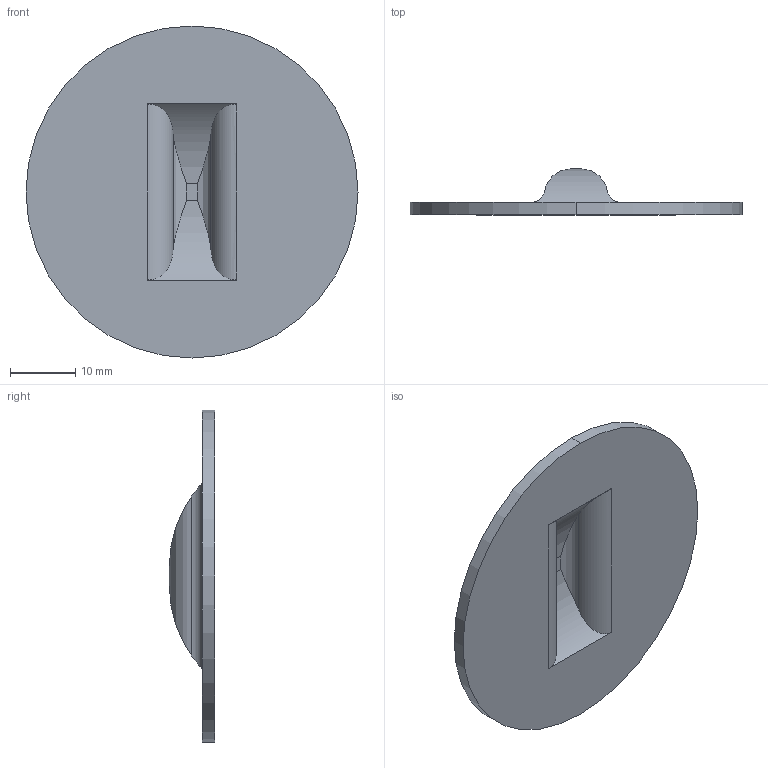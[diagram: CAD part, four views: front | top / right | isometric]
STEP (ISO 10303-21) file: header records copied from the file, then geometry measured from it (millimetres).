
FILE_DESCRIPTION (( 'STEP AP203' ), '1' );
FILE_NAME ('1140525-30.STEP', '2024-11-18T12:03:29', ( 'Admin' ), ( 'Microsoft' ), 'SwSTEP 2.0', 'SolidWorks 2024', '' );
FILE_SCHEMA (( 'CONFIG_CONTROL_DESIGN' ));
Length unit declared in the file: inch
Products named in the file (1): 1140525-30
Bounding box: 50.8 x 7.01 x 50.8 mm (x, y, z)
Volume: 4103.5 mm3; surface area: 4612.1 mm2
Topology: 1 solids, 1 shells, 18 faces, 50 edges, 36 vertices
Faces by surface type: cylinder 14, plane 4
Entity records: 857 total; most frequent: CARTESIAN_POINT 329, ORIENTED_EDGE 100, DIRECTION 80, EDGE_CURVE 50, VERTEX_POINT 36, AXIS2_PLACEMENT_3D 27, LINE 26, VECTOR 26
